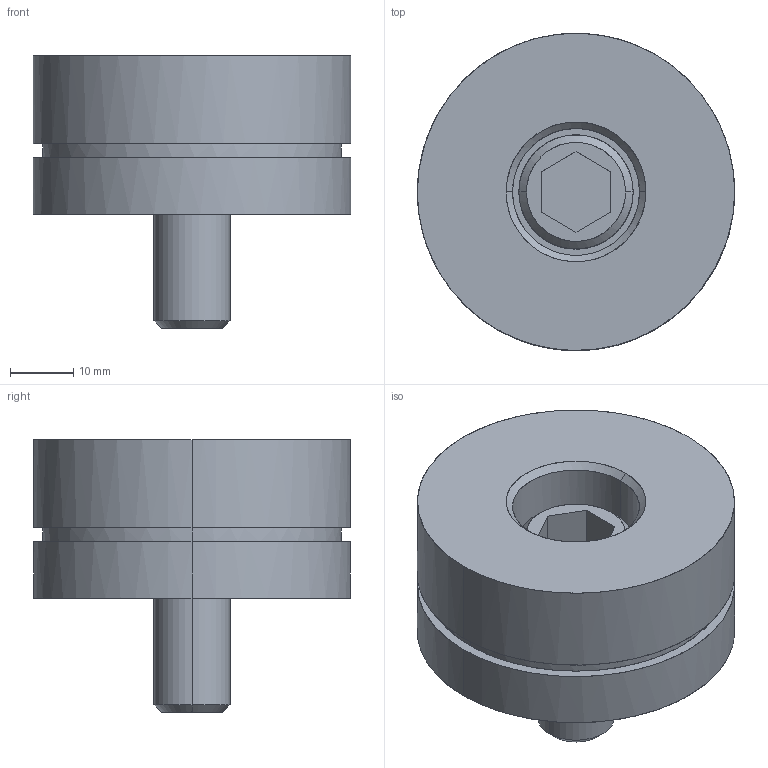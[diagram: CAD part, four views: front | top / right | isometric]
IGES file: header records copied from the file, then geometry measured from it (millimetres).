
Global section: file name: E:\UnigraphicsGraphicData\MISUMI_PRESS-PARTS\IGES\3d_sbn50-25-y_00583_r00.igs; native system: NX V5.0; preprocessor: UGS NX IGES V5.0; author: MISUMI; date: 20110105.162427; units: millimetre
Bounding box: 50 x 50 x 43 mm (x, y, z)
Surface area: 11675.4 mm2 (no closed solid volume)
Topology: 0 solids, 0 shells, 35 faces, 276 edges, 276 vertices
Faces by surface type: bspline 35
